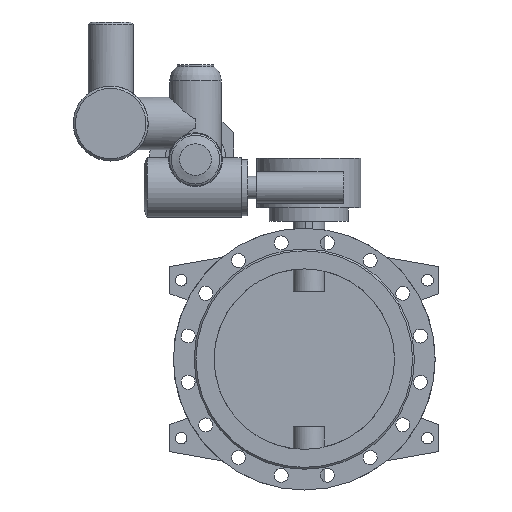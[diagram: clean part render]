
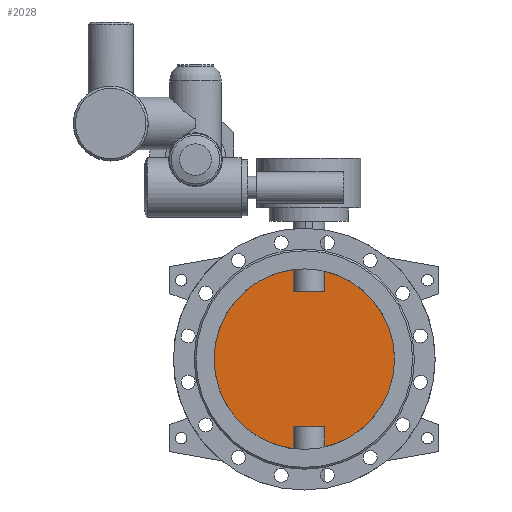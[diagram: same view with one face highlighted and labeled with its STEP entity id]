
A CAD part, front view. The second image highlights one B-rep face of the part: STEP entity #2028.
In plain terms, the highlighted planar face has unit normal (0, -1, 0).
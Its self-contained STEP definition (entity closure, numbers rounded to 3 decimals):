
#2028=ADVANCED_FACE('',(#4039),#4041,.F.);
#4039=FACE_BOUND('',#4040,.T.);
#4040=EDGE_LOOP('',(#4951,#4952,#4953,#4954,#4955,#4956,#4957,#4958));
#4041=PLANE('',#4042);
#4042=AXIS2_PLACEMENT_3D('',#4043,#4044,#4045);
#4043=CARTESIAN_POINT('',(0.,-5.,0.));
#4044=DIRECTION('',(0.,1.,0.));
#4045=DIRECTION('',(1.,0.,0.));
#4951=ORIENTED_EDGE('',*,*,#5408,.T.);
#4952=ORIENTED_EDGE('',*,*,#5413,.T.);
#4953=ORIENTED_EDGE('',*,*,#5414,.T.);
#4954=ORIENTED_EDGE('',*,*,#5415,.T.);
#4955=ORIENTED_EDGE('',*,*,#5410,.T.);
#4956=ORIENTED_EDGE('',*,*,#5416,.T.);
#4957=ORIENTED_EDGE('',*,*,#5417,.T.);
#4958=ORIENTED_EDGE('',*,*,#5418,.T.);
#5408=EDGE_CURVE('',#6205,#6206,#6207,.F.);
#5410=EDGE_CURVE('',#6210,#6208,#6211,.F.);
#5413=EDGE_CURVE('',#6206,#6215,#6216,.T.);
#5414=EDGE_CURVE('',#6215,#6217,#6218,.F.);
#5415=EDGE_CURVE('',#6217,#6210,#6219,.F.);
#5416=EDGE_CURVE('',#6208,#6220,#6221,.F.);
#5417=EDGE_CURVE('',#6220,#6222,#6223,.F.);
#5418=EDGE_CURVE('',#6222,#6205,#6224,.T.);
#6205=VERTEX_POINT('',#10296);
#6206=VERTEX_POINT('',#10297);
#6207=CIRCLE('',#10298,200.);
#6208=VERTEX_POINT('',#10302);
#6210=VERTEX_POINT('',#10365);
#6211=CIRCLE('',#10366,200.);
#6215=VERTEX_POINT('',#10488);
#6216=LINE('',#10489,#10490);
#6217=VERTEX_POINT('',#10492);
#6218=LINE('',#10493,#10494);
#6219=LINE('',#10496,#10497);
#6220=VERTEX_POINT('',#10499);
#6221=LINE('',#10500,#10501);
#6222=VERTEX_POINT('',#10503);
#6223=LINE('',#10504,#10505);
#6224=LINE('',#10507,#10508);
#10296=CARTESIAN_POINT('',(44.641,-5.,-194.954));
#10297=CARTESIAN_POINT('',(44.641,-5.,194.954));
#10298=AXIS2_PLACEMENT_3D('',#10299,#10300,#10301);
#10299=CARTESIAN_POINT('',(0.,-5.,0.));
#10300=DIRECTION('',(0.,1.,0.));
#10301=DIRECTION('',(0.223,0.,0.975));
#10302=CARTESIAN_POINT('',(-24.641,-5.,-198.476));
#10365=CARTESIAN_POINT('',(-24.641,-5.,198.476));
#10366=AXIS2_PLACEMENT_3D('',#10367,#10368,#10369);
#10367=CARTESIAN_POINT('',(0.,-5.,0.));
#10368=DIRECTION('',(0.,1.,0.));
#10369=DIRECTION('',(-0.123,0.,-0.992));
#10488=CARTESIAN_POINT('',(44.641,-5.,150.));
#10489=CARTESIAN_POINT('',(44.641,-5.,194.954));
#10490=VECTOR('',#10491,1.);
#10491=DIRECTION('',(0.,0.,-1.));
#10492=CARTESIAN_POINT('',(-24.641,-5.,150.));
#10493=CARTESIAN_POINT('',(-24.641,-5.,150.));
#10494=VECTOR('',#10495,1.);
#10495=DIRECTION('',(1.,0.,0.));
#10496=CARTESIAN_POINT('',(-24.641,-5.,198.476));
#10497=VECTOR('',#10498,1.);
#10498=DIRECTION('',(0.,0.,-1.));
#10499=CARTESIAN_POINT('',(-24.641,-5.,-150.));
#10500=CARTESIAN_POINT('',(-24.641,-5.,-150.));
#10501=VECTOR('',#10502,1.);
#10502=DIRECTION('',(0.,0.,-1.));
#10503=CARTESIAN_POINT('',(44.641,-5.,-150.));
#10504=CARTESIAN_POINT('',(44.641,-5.,-150.));
#10505=VECTOR('',#10506,1.);
#10506=DIRECTION('',(-1.,0.,0.));
#10507=CARTESIAN_POINT('',(44.641,-5.,-150.));
#10508=VECTOR('',#10509,1.);
#10509=DIRECTION('',(0.,0.,-1.));
